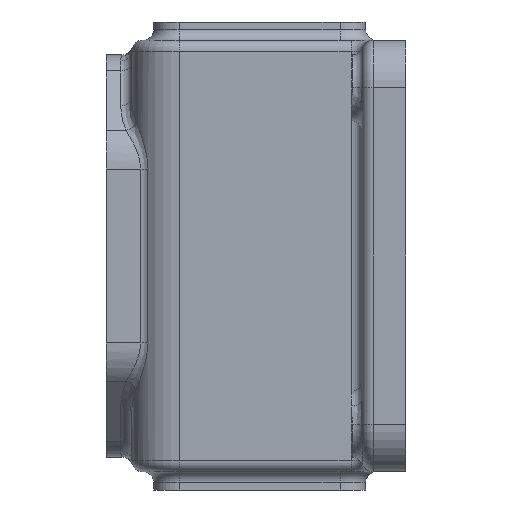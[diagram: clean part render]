
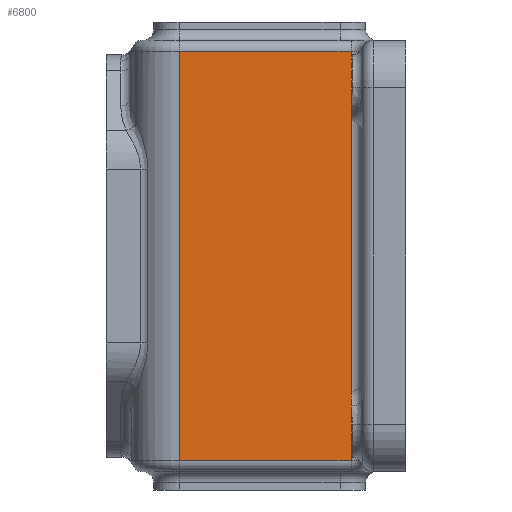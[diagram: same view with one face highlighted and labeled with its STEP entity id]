
A CAD part, left-side view. The second image highlights one B-rep face of the part: STEP entity #6800.
In plain terms, the highlighted planar face has unit normal (-1, 0, 0).
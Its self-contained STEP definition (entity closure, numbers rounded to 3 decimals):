
#878=FACE_OUTER_BOUND('',#1315,.T.);
#1315=EDGE_LOOP('',(#6014,#6015,#6016,#6017));
#1861=LINE('',#12177,#2424);
#1863=LINE('',#12189,#2426);
#1874=LINE('',#12253,#2437);
#1880=LINE('',#12271,#2443);
#2424=VECTOR('',#8694,10.);
#2426=VECTOR('',#8710,10.);
#2437=VECTOR('',#8791,10.);
#2443=VECTOR('',#8817,10.);
#3239=VERTEX_POINT('',#12174);
#3240=VERTEX_POINT('',#12176);
#3241=VERTEX_POINT('',#12180);
#3260=VERTEX_POINT('',#12249);
#4148=EDGE_CURVE('',#3239,#3240,#1861,.T.);
#4155=EDGE_CURVE('',#3241,#3239,#1863,.T.);
#4188=EDGE_CURVE('',#3240,#3260,#1874,.T.);
#4197=EDGE_CURVE('',#3260,#3241,#1880,.T.);
#6014=ORIENTED_EDGE('',*,*,#4155,.F.);
#6015=ORIENTED_EDGE('',*,*,#4197,.F.);
#6016=ORIENTED_EDGE('',*,*,#4188,.F.);
#6017=ORIENTED_EDGE('',*,*,#4148,.F.);
#6444=PLANE('',#7322);
#6800=ADVANCED_FACE('',(#878),#6444,.T.);
#7322=AXIS2_PLACEMENT_3D('',#12270,#8815,#8816);
#8694=DIRECTION('',(0.,0.,1.));
#8710=DIRECTION('',(0.,1.,0.));
#8791=DIRECTION('',(0.,-1.,0.));
#8815=DIRECTION('center_axis',(-1.,0.,0.));
#8816=DIRECTION('ref_axis',(0.,-1.,0.));
#8817=DIRECTION('',(0.,0.,-1.));
#12174=CARTESIAN_POINT('',(30.,62.,-56.));
#12176=CARTESIAN_POINT('',(30.,62.,56.));
#12177=CARTESIAN_POINT('',(30.,62.,0.));
#12180=CARTESIAN_POINT('',(30.,15.,-56.));
#12189=CARTESIAN_POINT('',(30.,56.25,-56.));
#12249=CARTESIAN_POINT('',(30.,15.,56.));
#12253=CARTESIAN_POINT('',(30.,56.25,56.));
#12270=CARTESIAN_POINT('Origin',(30.,75.,0.));
#12271=CARTESIAN_POINT('',(30.,15.,0.));
